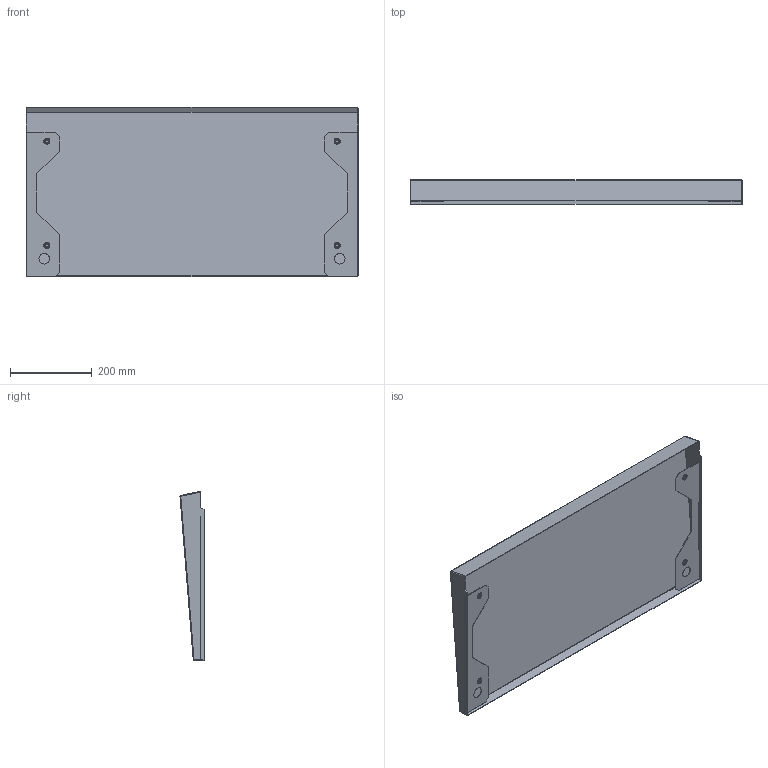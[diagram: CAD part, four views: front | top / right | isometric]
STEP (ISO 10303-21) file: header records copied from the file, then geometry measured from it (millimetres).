
FILE_DESCRIPTION (( 'STEP AP203' ), '1' );
FILE_NAME ('R 80.40 Cﾁ ﾊ鰀靍裲 鈞隆.STEP', '2012-11-21T04:25:09', ( 'system' ), ( '' ), 'SwSTEP 2.0', 'SolidWorks 2012', '' );
FILE_SCHEMA (( 'CONFIG_CONTROL_DESIGN' ));
Length unit declared in the file: millimetre
Products named in the file (1): R 80.40 Cﾁ ﾊ鰀靍裲 鈞隆
Bounding box: 810 x 58.63 x 413.35 mm (x, y, z)
Volume: 644304 mm3; surface area: 925010.5 mm2
Topology: 5 solids, 5 shells, 152 faces, 354 edges, 224 vertices
Faces by surface type: cylinder 62, plane 58, torus 16, cone 8, sphere 8
Entity records: 4419 total; most frequent: DIRECTION 824, CARTESIAN_POINT 731, ORIENTED_EDGE 692, EDGE_CURVE 346, AXIS2_PLACEMENT_3D 329, VERTEX_POINT 220, EDGE_LOOP 188, CIRCLE 176
